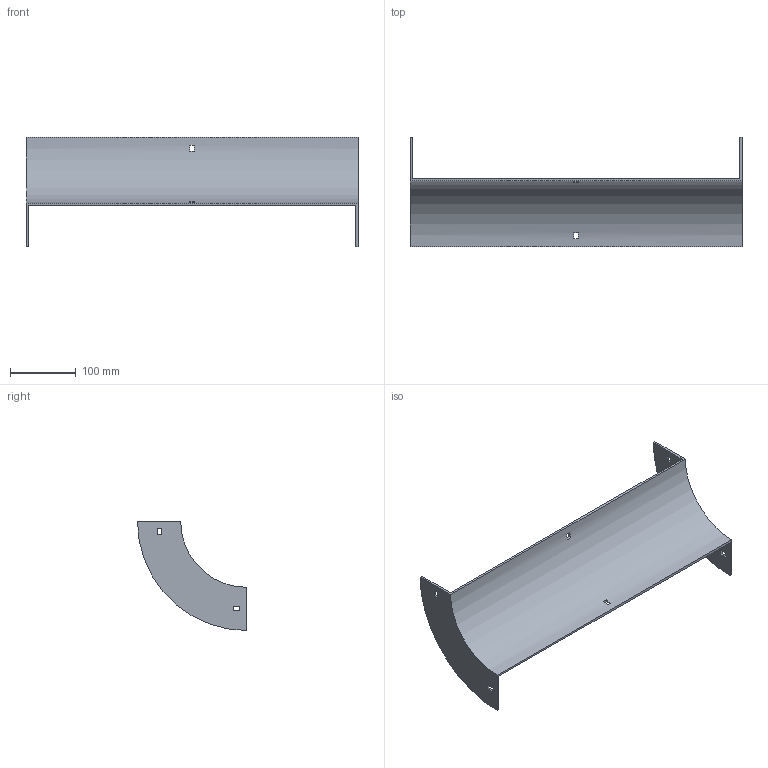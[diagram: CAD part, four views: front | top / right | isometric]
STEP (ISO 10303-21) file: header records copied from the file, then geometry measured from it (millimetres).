
FILE_DESCRIPTION (( 'STEP AP214' ), '1' );
FILE_NAME ('33B1H500.step', '2025-02-21T09:32:16', ( '' ), ( '' ), 'SwSTEP 2.0', 'SolidWorks 2023', '' );
FILE_SCHEMA (( 'AUTOMOTIVE_DESIGN' ));
Length unit declared in the file: millimetre
Products named in the file (1): 33B1H500
Bounding box: 504 x 165.5 x 165.5 mm (x, y, z)
Volume: 372234.5 mm3; surface area: 219598 mm2
Topology: 1 solids, 1 shells, 34 faces, 96 edges, 64 vertices
Faces by surface type: plane 30, cylinder 4
Entity records: 1143 total; most frequent: CARTESIAN_POINT 195, ORIENTED_EDGE 192, DIRECTION 182, EDGE_CURVE 96, VECTOR 80, LINE 80, VERTEX_POINT 64, AXIS2_PLACEMENT_3D 51
